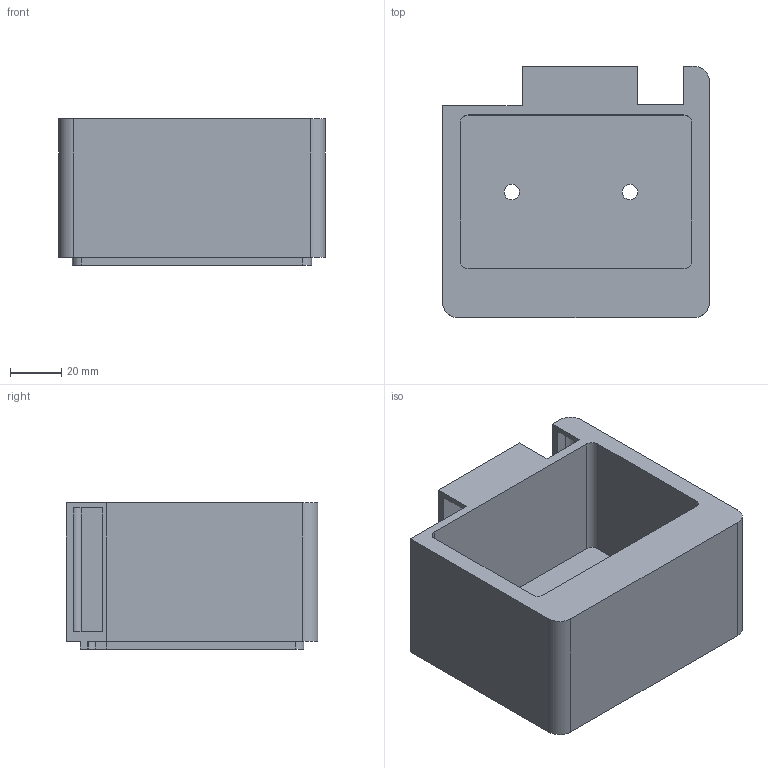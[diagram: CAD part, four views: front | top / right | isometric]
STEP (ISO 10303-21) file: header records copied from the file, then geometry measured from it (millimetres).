
FILE_DESCRIPTION(('Open CASCADE Model'),'2;1');
FILE_NAME('Open CASCADE Shape Model','2026-09-13T21:36:03',('Author'),( 'Open CASCADE'),'Open CASCADE STEP processor 7.9','Open CASCADE 7.9' ,'Unknown');
FILE_SCHEMA(('AUTOMOTIVE_DESIGN { 1 0 10303 214 1 1 1 1 }'));
Length unit declared in the file: millimetre
Products named in the file (1): Open CASCADE STEP translator 7.9 3
Bounding box: 104 x 98 x 57 mm (x, y, z)
Volume: 155009.7 mm3; surface area: 88996.2 mm2
Topology: 1 solids, 1 shells, 66 faces, 189 edges, 126 vertices
Faces by surface type: plane 44, cylinder 22
Full cylindrical faces by diameter (mm): 6 x2
Entity records: 4614 total; most frequent: CARTESIAN_POINT 840, DIRECTION 695, LINE 435, VECTOR 435, ORIENTED_EDGE 378, PCURVE 378, DEFINITIONAL_REPRESENTATION 378, EDGE_CURVE 189
